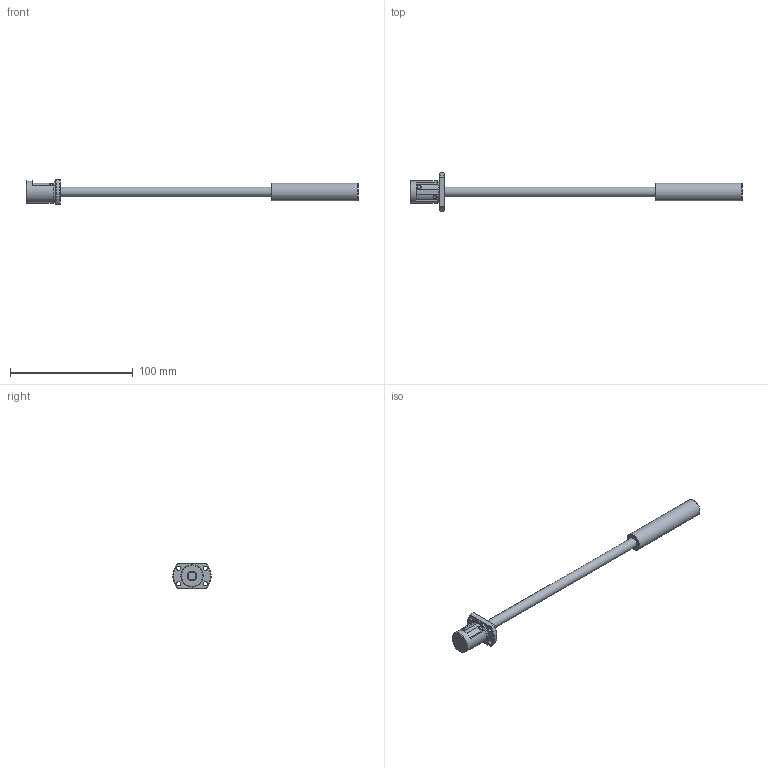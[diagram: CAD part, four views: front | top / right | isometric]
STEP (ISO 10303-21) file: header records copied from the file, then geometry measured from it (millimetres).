
FILE_DESCRIPTION( ( 'STEP AP203' ), '1' );
FILE_NAME( 'e:/temp/worker_65/temp/exporttempdir_236_508_OsP0B/format_0/SRT0805-196R270C7A0X(0None).stp', '2021-10-19T05:32:05', ( 'License CC BY-ND 4.0' ), ( 'CADENAS' ), ' ', 'PARTsolutions', ' ' );
FILE_SCHEMA( ( 'CONFIG_CONTROL_DESIGN' ) );
Length unit declared in the file: millimetre
Products named in the file (3): SRT0805-196R270C7A0X(0None); _SRT0805-196R270ACt7NoneShaft; _SRT0805Nut
Assembly tree (2 placements, depth 2):
  SRT0805-196R270C7A0X(0None)
    _SRT0805-196R270ACt7NoneShaft
    _SRT0805Nut
Bounding box: 270 x 30.91 x 20 mm (x, y, z)
Volume: 27524.9 mm3; surface area: 11997.6 mm2
Topology: 2 solids, 2 shells, 58 faces, 139 edges, 89 vertices
Faces by surface type: plane 36, cylinder 13, cone 9
Full cylindrical faces by diameter (mm): 3.4 x4, 8 x2, 14.2 x1, 17.7 x1, 18 x1
Entity records: 1762 total; most frequent: CARTESIAN_POINT 373, DIRECTION 276, ORIENTED_EDGE 234, EDGE_CURVE 117, AXIS2_PLACEMENT_3D 108, EDGE_LOOP 86, VERTEX_POINT 81, FACE_OUTER_BOUND 67
